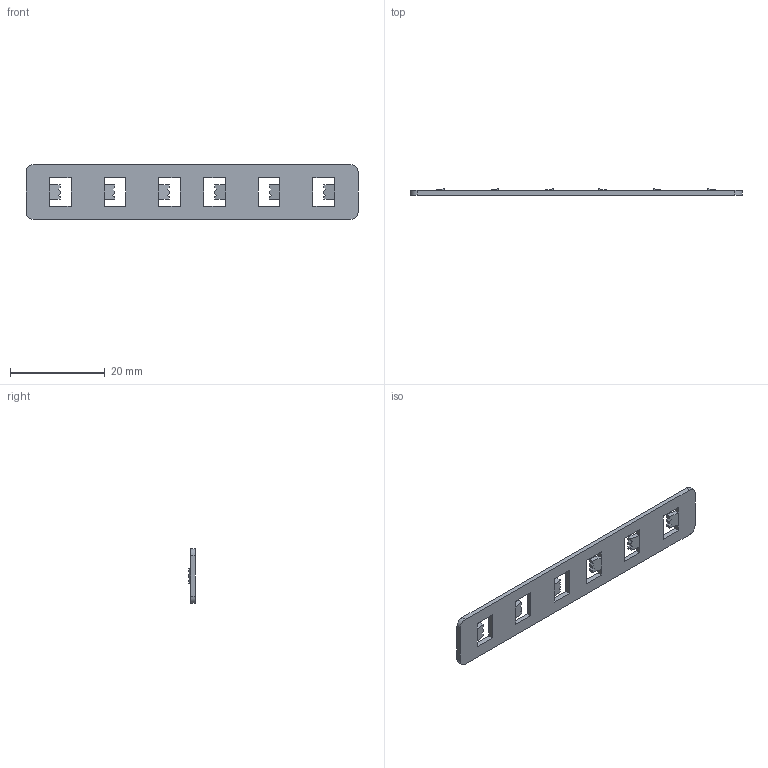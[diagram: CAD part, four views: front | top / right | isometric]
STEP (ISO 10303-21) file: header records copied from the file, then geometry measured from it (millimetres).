
FILE_DESCRIPTION((''),'2;1');
FILE_NAME('410030','2023-06-21T',('Administrator'),(''),'PRO/ENGINEER BY PARAMETRIC TECHNOLOGY CORPORATION, 2015070','PRO/ENGINEER BY PARAMETRIC TECHNOLOGY CORPORATION, 2015070','');
FILE_SCHEMA(('CONFIG_CONTROL_DESIGN','SHAPE_APPEARANCE_LAYERS_GROUPS'));
Length unit declared in the file: millimetre
Products named in the file (1): 410030
Bounding box: 70 x 1.38 x 11.5 mm (x, y, z)
Volume: 678.7 mm3; surface area: 1675.7 mm2
Topology: 1 solids, 1 shells, 106 faces, 288 edges, 184 vertices
Faces by surface type: plane 102, cylinder 4
Entity records: 3606 total; most frequent: CARTESIAN_POINT 578, ORIENTED_EDGE 576, DIRECTION 508, COLOUR_RGB 290, EDGE_CURVE 288, VECTOR 280, LINE 280, VERTEX_POINT 184
